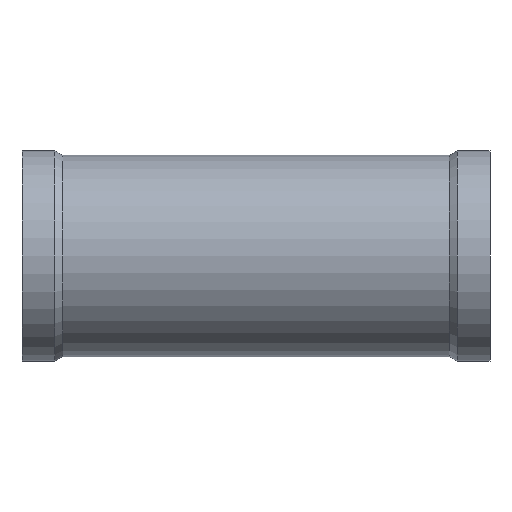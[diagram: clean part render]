
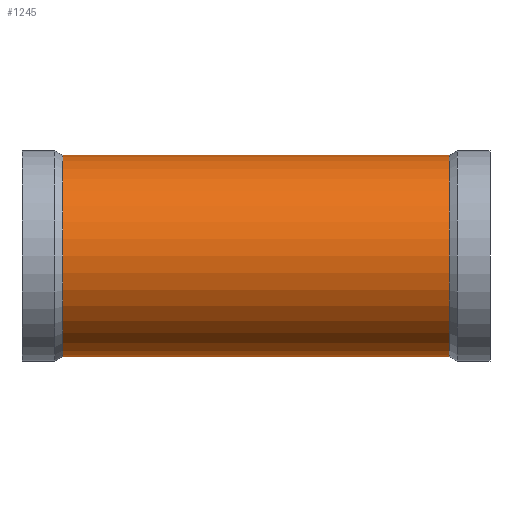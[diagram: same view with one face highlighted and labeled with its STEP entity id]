
A CAD part, left-side view. The second image highlights one B-rep face of the part: STEP entity #1245.
In plain terms, the highlighted cylindrical face has radius 43 mm (diameter 86 mm), a partial arc.
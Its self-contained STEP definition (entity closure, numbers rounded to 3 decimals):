
#48 = CARTESIAN_POINT ( 'NONE',  ( 0., -155.141, 0. ) ) ;
#251 = DIRECTION ( 'NONE',  ( 0., 1., 0. ) ) ;
#355 = VECTOR ( 'NONE', #549, 1000. ) ;
#357 = CARTESIAN_POINT ( 'NONE',  ( 0., -155.141, -43. ) ) ;
#363 = ORIENTED_EDGE ( 'NONE', *, *, #1242, .F. ) ;
#402 = CARTESIAN_POINT ( 'NONE',  ( 0., 182.536, 43. ) ) ;
#509 = ORIENTED_EDGE ( 'NONE', *, *, #977, .T. ) ;
#515 = DIRECTION ( 'NONE',  ( 0., -1., 0. ) ) ;
#549 = DIRECTION ( 'NONE',  ( 0., 1., 0. ) ) ;
#578 = CIRCLE ( 'NONE', #907, 43. ) ;
#595 = ORIENTED_EDGE ( 'NONE', *, *, #1205, .T. ) ;
#671 = CIRCLE ( 'NONE', #1406, 43. ) ;
#856 = ORIENTED_EDGE ( 'NONE', *, *, #1691, .T. ) ;
#907 = AXIS2_PLACEMENT_3D ( 'NONE', #1657, #251, #974 ) ;
#910 = DIRECTION ( 'NONE',  ( 0., 1., 0. ) ) ;
#974 = DIRECTION ( 'NONE',  ( 0., 0., 1. ) ) ;
#977 = EDGE_CURVE ( 'NONE', #1709, #1259, #578, .T. ) ;
#1017 = VERTEX_POINT ( 'NONE', #1311 ) ;
#1080 = CARTESIAN_POINT ( 'NONE',  ( 0., 182.536, 0. ) ) ;
#1205 = EDGE_CURVE ( 'NONE', #1259, #2028, #1747, .T. ) ;
#1242 = EDGE_CURVE ( 'NONE', #1709, #1017, #1759, .T. ) ;
#1245 = ADVANCED_FACE ( 'NONE', ( #1944 ), #1932, .T. ) ;
#1259 = VERTEX_POINT ( 'NONE', #1437 ) ;
#1287 = EDGE_LOOP ( 'NONE', ( #363, #509, #595, #856 ) ) ;
#1311 = CARTESIAN_POINT ( 'NONE',  ( 0., 182.536, -43. ) ) ;
#1380 = AXIS2_PLACEMENT_3D ( 'NONE', #48, #910, #1751 ) ;
#1406 = AXIS2_PLACEMENT_3D ( 'NONE', #1080, #515, #1414 ) ;
#1414 = DIRECTION ( 'NONE',  ( 0., 0., 1. ) ) ;
#1437 = CARTESIAN_POINT ( 'NONE',  ( 0., 17.464, 43. ) ) ;
#1574 = CARTESIAN_POINT ( 'NONE',  ( 0., 17.464, -43. ) ) ;
#1587 = DIRECTION ( 'NONE',  ( 0., 1., 0. ) ) ;
#1657 = CARTESIAN_POINT ( 'NONE',  ( 0., 17.464, 0. ) ) ;
#1691 = EDGE_CURVE ( 'NONE', #2028, #1017, #671, .T. ) ;
#1709 = VERTEX_POINT ( 'NONE', #1574 ) ;
#1728 = VECTOR ( 'NONE', #1587, 1000. ) ;
#1747 = LINE ( 'NONE', #1928, #355 ) ;
#1751 = DIRECTION ( 'NONE',  ( 0., 0., 1. ) ) ;
#1759 = LINE ( 'NONE', #357, #1728 ) ;
#1928 = CARTESIAN_POINT ( 'NONE',  ( 0., -155.141, 43. ) ) ;
#1932 = CYLINDRICAL_SURFACE ( 'NONE', #1380, 43. ) ;
#1944 = FACE_OUTER_BOUND ( 'NONE', #1287, .T. ) ;
#2028 = VERTEX_POINT ( 'NONE', #402 ) ;
